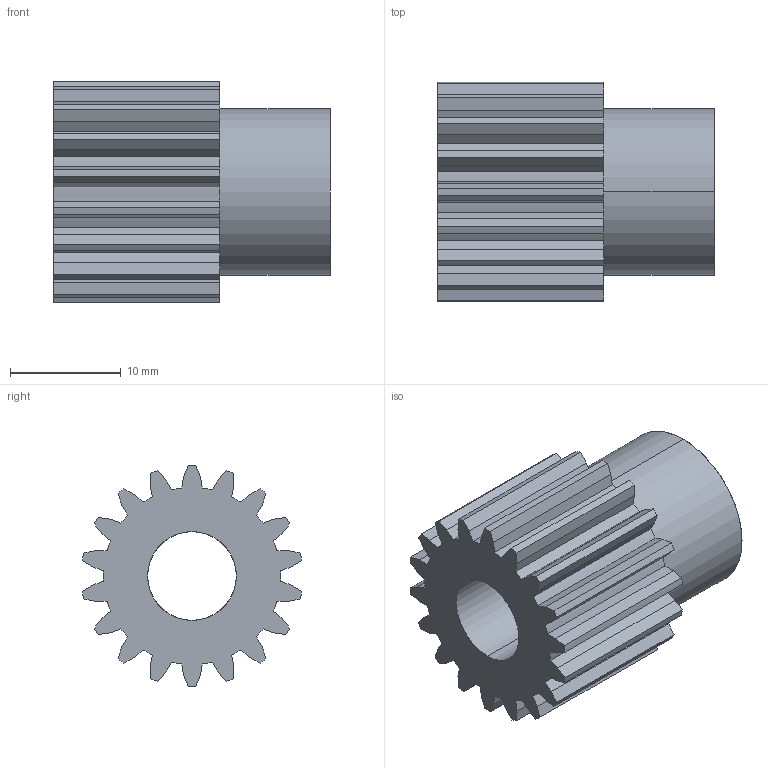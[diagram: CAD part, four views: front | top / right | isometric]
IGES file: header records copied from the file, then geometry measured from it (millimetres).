
Start section: SolidWorks IGES file using analytic representation for surfaces
Global section: file name: C:\Users\Honza\Desktop\Matis (Hotove)\Èelní ozubená kola\PM\MODUL 1\PM 26018.IGS; native system: SolidWorks 2010; preprocessor: SolidWorks 2010; author: Honza; date: 130923.142231; units: millimetre
Bounding box: 25 x 19.8 x 20 mm (x, y, z)
Surface area: 3090.2 mm2 (no closed solid volume)
Topology: 0 solids, 0 shells, 115 faces, 794 edges, 794 vertices
Faces by surface type: bspline 75, revolution 40
